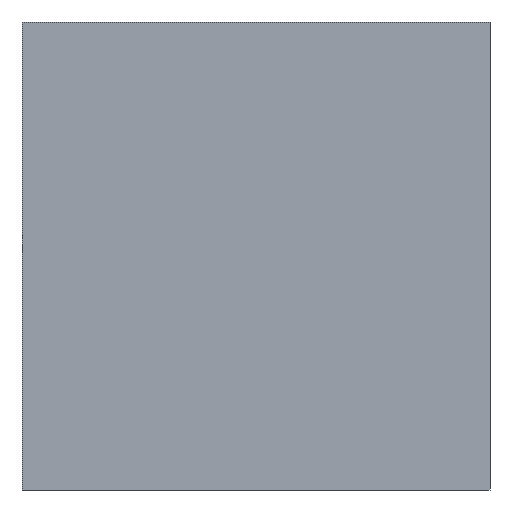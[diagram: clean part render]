
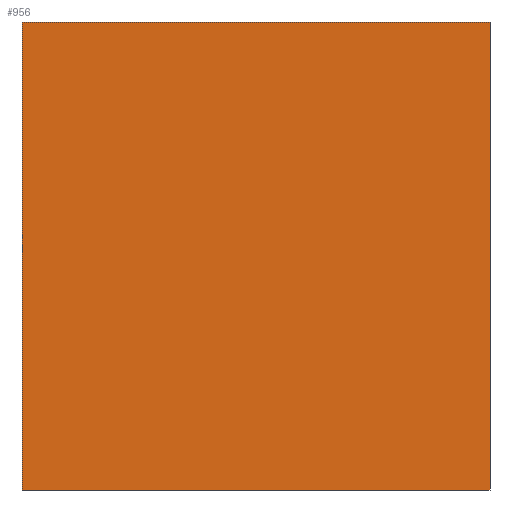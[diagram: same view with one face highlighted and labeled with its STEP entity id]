
A CAD part, front view. The second image highlights one B-rep face of the part: STEP entity #956.
In plain terms, the highlighted planar face has unit normal (0, -1, 0).
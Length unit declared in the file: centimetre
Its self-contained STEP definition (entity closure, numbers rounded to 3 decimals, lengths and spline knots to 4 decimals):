
#30 = CARTESIAN_POINT ( 'NONE',  ( 0., 0., 1000. ) ) ;
#31 = DIRECTION ( 'NONE',  ( 0., 0., -1. ) ) ;
#33 = VERTEX_POINT ( 'NONE', #462 ) ;
#217 = ORIENTED_EDGE ( 'NONE', *, *, #1327, .T. ) ;
#224 = CARTESIAN_POINT ( 'NONE',  ( 0., 0., 1000. ) ) ;
#390 = EDGE_CURVE ( 'NONE', #33, #402, #987, .T. ) ;
#394 = VECTOR ( 'NONE', #1009, 100. ) ;
#402 = VERTEX_POINT ( 'NONE', #860 ) ;
#462 = CARTESIAN_POINT ( 'NONE',  ( 0., 0., 1000. ) ) ;
#532 = LINE ( 'NONE', #869, #1312 ) ;
#582 = DIRECTION ( 'NONE',  ( 0., 1., 0. ) ) ;
#594 = ORIENTED_EDGE ( 'NONE', *, *, #1042, .T. ) ;
#640 = AXIS2_PLACEMENT_3D ( 'NONE', #224, #582, #1550 ) ;
#687 = FACE_OUTER_BOUND ( 'NONE', #1412, .T. ) ;
#860 = CARTESIAN_POINT ( 'NONE',  ( 1000., 0., 1000. ) ) ;
#869 = CARTESIAN_POINT ( 'NONE',  ( 0., 0., 1000. ) ) ;
#880 = LINE ( 'NONE', #1367, #394 ) ;
#898 = LINE ( 'NONE', #1117, #1418 ) ;
#953 = VERTEX_POINT ( 'NONE', #1426 ) ;
#956 = ADVANCED_FACE ( 'NONE', ( #687 ), #1302, .F. ) ;
#987 = LINE ( 'NONE', #30, #1308 ) ;
#1007 = DIRECTION ( 'NONE',  ( 1., 0., 0. ) ) ;
#1009 = DIRECTION ( 'NONE',  ( 1., 0., 0. ) ) ;
#1042 = EDGE_CURVE ( 'NONE', #33, #953, #532, .T. ) ;
#1117 = CARTESIAN_POINT ( 'NONE',  ( 1000., 0., 1000. ) ) ;
#1288 = EDGE_CURVE ( 'NONE', #402, #1445, #898, .T. ) ;
#1291 = CARTESIAN_POINT ( 'NONE',  ( 1000., 0., 0. ) ) ;
#1302 = PLANE ( 'NONE',  #640 ) ;
#1308 = VECTOR ( 'NONE', #1007, 100. ) ;
#1312 = VECTOR ( 'NONE', #31, 100. ) ;
#1320 = ORIENTED_EDGE ( 'NONE', *, *, #1288, .F. ) ;
#1327 = EDGE_CURVE ( 'NONE', #953, #1445, #880, .T. ) ;
#1367 = CARTESIAN_POINT ( 'NONE',  ( 0., 0., 0. ) ) ;
#1384 = DIRECTION ( 'NONE',  ( 0., 0., -1. ) ) ;
#1412 = EDGE_LOOP ( 'NONE', ( #217, #1320, #1497, #594 ) ) ;
#1418 = VECTOR ( 'NONE', #1384, 100. ) ;
#1426 = CARTESIAN_POINT ( 'NONE',  ( 0., 0., 0. ) ) ;
#1445 = VERTEX_POINT ( 'NONE', #1291 ) ;
#1497 = ORIENTED_EDGE ( 'NONE', *, *, #390, .F. ) ;
#1550 = DIRECTION ( 'NONE',  ( 0., 0., 1. ) ) ;
